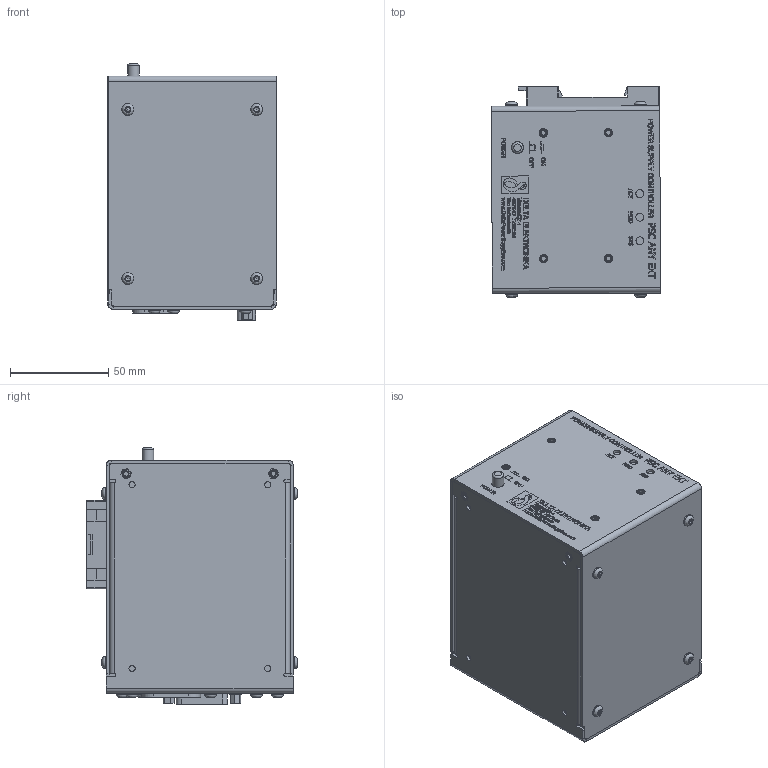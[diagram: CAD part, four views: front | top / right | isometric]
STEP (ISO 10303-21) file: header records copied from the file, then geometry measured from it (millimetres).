
FILE_DESCRIPTION(/* description */ (''),/* implementation_level */ '2;1');
FILE_NAME(/* name */ 'PSC ANY EXT_Wmp-h.stp',/* time_stamp */ '2024-12-02T08:53:02+01:00',/* author */ ('Simon'),/* organization */ (''),/* preprocessor_version */ 'ST-DEVELOPER v19.2',/* originating_system */ 'Autodesk Inventor 2024',/* authorisation */ '');
FILE_SCHEMA (('AUTOMOTIVE_DESIGN { 1 0 10303 214 3 1 1 }'));
Products named in the file (1): _Assembly anybus-ext_Simplify_1
Bounding box: 85.7 x 107.36 x 130.29 mm (x, y, z)
Volume: 926114.2 mm3; surface area: 90047.6 mm2
Topology: 1 solids, 190 shells, 5792 faces, 15612 edges, 10403 vertices
Faces by surface type: plane 4019, bspline 998, cylinder 638, cone 102, torus 35
Full cylindrical faces by diameter (mm): 0.43 x50, 0.6 x3, 0.7 x1, 1 x15, 2.156 x2, 2.459 x10, 2.5 x2, 2.75 x2, 3.1 x4, 3.2 x2, 4 x9, 4.14 x6, 4.3 x14, 4.4 x2, 5 x2, 5.8 x1, 6 x18, 6.2 x3
Entity records: 196885 total; most frequent: CARTESIAN_POINT 50765, ORIENTED_EDGE 30334, DIRECTION 25307, EDGE_CURVE 15644, LINE 11715, VECTOR 11715, VERTEX_POINT 10403, AXIS2_PLACEMENT_3D 6796
